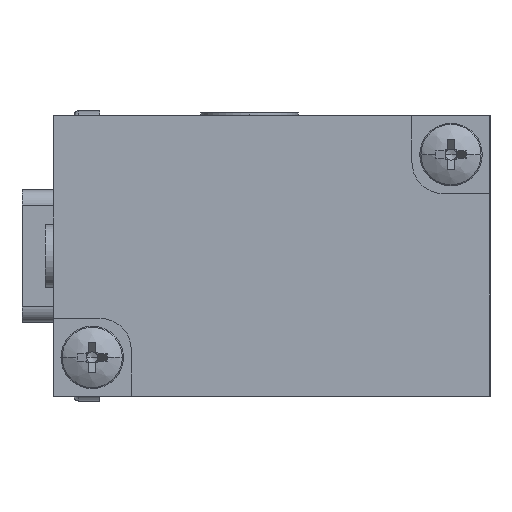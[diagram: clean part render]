
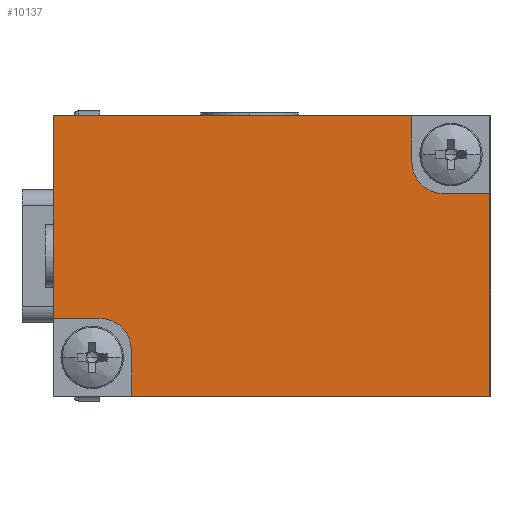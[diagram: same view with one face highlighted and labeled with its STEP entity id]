
A CAD part, left-side view. The second image highlights one B-rep face of the part: STEP entity #10137.
In plain terms, the highlighted planar face has unit normal (-1, 0, 0).
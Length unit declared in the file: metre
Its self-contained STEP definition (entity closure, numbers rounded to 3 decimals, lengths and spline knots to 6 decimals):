
#200 = CARTESIAN_POINT ( 'NONE',  ( -0.009, 0.005, 0.006 ) ) ;
#261 = EDGE_CURVE ( 'NONE', #309, #626, #6285, .T. ) ;
#309 = VERTEX_POINT ( 'NONE', #583 ) ;
#428 = LINE ( 'NONE', #7508, #6692 ) ;
#583 = CARTESIAN_POINT ( 'NONE',  ( -0.009, 0.023, -0.009 ) ) ;
#626 = VERTEX_POINT ( 'NONE', #1358 ) ;
#685 = EDGE_CURVE ( 'NONE', #8524, #1433, #1040, .T. ) ;
#851 = LINE ( 'NONE', #5914, #9231 ) ;
#897 = AXIS2_PLACEMENT_3D ( 'NONE', #2591, #2815, #2851 ) ;
#996 = DIRECTION ( 'NONE',  ( 0., 1., 0. ) ) ;
#1040 = CIRCLE ( 'NONE', #5475, 0.002 ) ;
#1049 = CARTESIAN_POINT ( 'NONE',  ( -0.009, 0.0015, 0.004 ) ) ;
#1074 = CARTESIAN_POINT ( 'NONE',  ( -0.009, 0.005, 0.009 ) ) ;
#1130 = VERTEX_POINT ( 'NONE', #5978 ) ;
#1151 = EDGE_LOOP ( 'NONE', ( #9662, #2009, #1335, #8162, #4801, #9020, #2030, #4348, #1179, #4949 ) ) ;
#1179 = ORIENTED_EDGE ( 'NONE', *, *, #8516, .F. ) ;
#1335 = ORIENTED_EDGE ( 'NONE', *, *, #7349, .T. ) ;
#1358 = CARTESIAN_POINT ( 'NONE',  ( -0.009, 0.023, -0.006 ) ) ;
#1433 = VERTEX_POINT ( 'NONE', #9481 ) ;
#1982 = VECTOR ( 'NONE', #10476, 1. ) ;
#2009 = ORIENTED_EDGE ( 'NONE', *, *, #685, .F. ) ;
#2030 = ORIENTED_EDGE ( 'NONE', *, *, #6643, .F. ) ;
#2320 = CARTESIAN_POINT ( 'NONE',  ( -0.009, 0.003, 0.006 ) ) ;
#2336 = DIRECTION ( 'NONE',  ( -1., 0., 0. ) ) ;
#2387 = DIRECTION ( 'NONE',  ( 0., 0., -1. ) ) ;
#2407 = CARTESIAN_POINT ( 'NONE',  ( -0.009, 0., 0.004 ) ) ;
#2591 = CARTESIAN_POINT ( 'NONE',  ( -0.009, 0.025, -0.006 ) ) ;
#2656 = DIRECTION ( 'NONE',  ( 0., 1., 0. ) ) ;
#2701 = VECTOR ( 'NONE', #3761, 1. ) ;
#2753 = CARTESIAN_POINT ( 'NONE',  ( -0.009, 0., 0.009 ) ) ;
#2815 = DIRECTION ( 'NONE',  ( -1., 0., 0. ) ) ;
#2851 = DIRECTION ( 'NONE',  ( 0., 0., -1. ) ) ;
#2980 = LINE ( 'NONE', #7717, #2701 ) ;
#3280 = CARTESIAN_POINT ( 'NONE',  ( -0.009, 0.014, -0.004 ) ) ;
#3368 = EDGE_CURVE ( 'NONE', #4853, #1433, #9876, .T. ) ;
#3488 = VECTOR ( 'NONE', #996, 1. ) ;
#3583 = DIRECTION ( 'NONE',  ( 0., 0., -1. ) ) ;
#3687 = CARTESIAN_POINT ( 'NONE',  ( -0.009, 0.028, 0.009 ) ) ;
#3761 = DIRECTION ( 'NONE',  ( 0., 0., 1. ) ) ;
#3774 = EDGE_CURVE ( 'NONE', #8892, #8930, #5000, .T. ) ;
#4176 = CARTESIAN_POINT ( 'NONE',  ( -0.009, 0.014, 0.009 ) ) ;
#4348 = ORIENTED_EDGE ( 'NONE', *, *, #261, .F. ) ;
#4370 = CARTESIAN_POINT ( 'NONE',  ( -0.009, 0.025, -0.004 ) ) ;
#4502 = DIRECTION ( 'NONE',  ( 0., 1., 0. ) ) ;
#4801 = ORIENTED_EDGE ( 'NONE', *, *, #9996, .T. ) ;
#4853 = VERTEX_POINT ( 'NONE', #2407 ) ;
#4949 = ORIENTED_EDGE ( 'NONE', *, *, #6298, .T. ) ;
#5000 = LINE ( 'NONE', #4176, #7106 ) ;
#5475 = AXIS2_PLACEMENT_3D ( 'NONE', #2320, #2336, #2387 ) ;
#5817 = VECTOR ( 'NONE', #9809, 1. ) ;
#5914 = CARTESIAN_POINT ( 'NONE',  ( -0.009, 0., 0. ) ) ;
#5923 = DIRECTION ( 'NONE',  ( 0., 0., 1. ) ) ;
#5978 = CARTESIAN_POINT ( 'NONE',  ( -0.009, 0., -0.009 ) ) ;
#6092 = EDGE_CURVE ( 'NONE', #6207, #7397, #9099, .T. ) ;
#6207 = VERTEX_POINT ( 'NONE', #4370 ) ;
#6285 = LINE ( 'NONE', #10547, #1982 ) ;
#6298 = EDGE_CURVE ( 'NONE', #1130, #4853, #851, .T. ) ;
#6643 = EDGE_CURVE ( 'NONE', #626, #6207, #8611, .T. ) ;
#6692 = VECTOR ( 'NONE', #9951, 1. ) ;
#6936 = FACE_OUTER_BOUND ( 'NONE', #1151, .T. ) ;
#7106 = VECTOR ( 'NONE', #4502, 1. ) ;
#7240 = VECTOR ( 'NONE', #2656, 1. ) ;
#7349 = EDGE_CURVE ( 'NONE', #8524, #8892, #2980, .T. ) ;
#7397 = VERTEX_POINT ( 'NONE', #9366 ) ;
#7508 = CARTESIAN_POINT ( 'NONE',  ( -0.009, 0.014, -0.009 ) ) ;
#7542 = PLANE ( 'NONE',  #9683 ) ;
#7717 = CARTESIAN_POINT ( 'NONE',  ( -0.009, 0.005, 0.0075 ) ) ;
#8162 = ORIENTED_EDGE ( 'NONE', *, *, #3774, .T. ) ;
#8180 = LINE ( 'NONE', #9746, #5817 ) ;
#8365 = DIRECTION ( 'NONE',  ( 1., 0., 0. ) ) ;
#8516 = EDGE_CURVE ( 'NONE', #1130, #309, #428, .T. ) ;
#8524 = VERTEX_POINT ( 'NONE', #200 ) ;
#8611 = CIRCLE ( 'NONE', #897, 0.002 ) ;
#8892 = VERTEX_POINT ( 'NONE', #1074 ) ;
#8930 = VERTEX_POINT ( 'NONE', #3687 ) ;
#9020 = ORIENTED_EDGE ( 'NONE', *, *, #6092, .F. ) ;
#9099 = LINE ( 'NONE', #3280, #7240 ) ;
#9231 = VECTOR ( 'NONE', #5923, 1. ) ;
#9366 = CARTESIAN_POINT ( 'NONE',  ( -0.009, 0.028, -0.004 ) ) ;
#9481 = CARTESIAN_POINT ( 'NONE',  ( -0.009, 0.003, 0.004 ) ) ;
#9662 = ORIENTED_EDGE ( 'NONE', *, *, #3368, .T. ) ;
#9683 = AXIS2_PLACEMENT_3D ( 'NONE', #2753, #8365, #3583 ) ;
#9746 = CARTESIAN_POINT ( 'NONE',  ( -0.009, 0.028, 0. ) ) ;
#9809 = DIRECTION ( 'NONE',  ( 0., 0., -1. ) ) ;
#9876 = LINE ( 'NONE', #1049, #3488 ) ;
#9951 = DIRECTION ( 'NONE',  ( 0., 1., 0. ) ) ;
#9996 = EDGE_CURVE ( 'NONE', #8930, #7397, #8180, .T. ) ;
#10137 = ADVANCED_FACE ( 'NONE', ( #6936 ), #7542, .F. ) ;
#10476 = DIRECTION ( 'NONE',  ( 0., 0., 1. ) ) ;
#10547 = CARTESIAN_POINT ( 'NONE',  ( -0.009, 0.023, 0. ) ) ;
